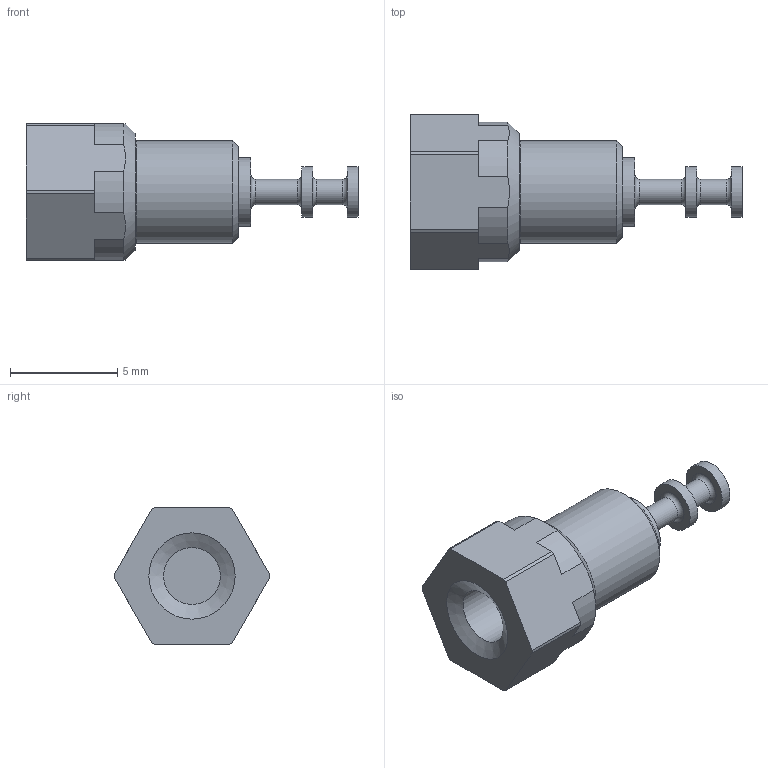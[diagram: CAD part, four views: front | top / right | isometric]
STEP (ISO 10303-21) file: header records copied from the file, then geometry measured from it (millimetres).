
FILE_DESCRIPTION(/* description */ (''),/* implementation_level */ '2;1');
FILE_NAME(/* name */ '\\Snap1\dwgs\Customer 3D Models\570\570-3650-02 Customer model.stp',/* time_stamp */ '2017-01-04T14:32:05+00:00',/* author */ ('paulk'),/* organization */ (''),/* preprocessor_version */ 'ST-DEVELOPER v15.2',/* originating_system */ 'Autodesk Inventor 2014',/* authorisation */ '');
FILE_SCHEMA (('CONFIG_CONTROL_DESIGN'));
Length unit declared in the file: millimetre
Products named in the file (1): 570-3650-02 Customer model
Bounding box: 15.44 x 7.24 x 6.34 mm (x, y, z)
Volume: 249.4 mm3; surface area: 306.5 mm2
Topology: 1 solids, 1 shells, 48 faces, 112 edges, 72 vertices
Faces by surface type: plane 20, cylinder 19, cone 5, torus 4
Full cylindrical faces by diameter (mm): 1.168 x2, 2.362 x2, 2.642 x1, 3.175 x1, 4.75 x1
Entity records: 1364 total; most frequent: DIRECTION 232, CARTESIAN_POINT 225, ORIENTED_EDGE 188, AXIS2_PLACEMENT_3D 95, EDGE_CURVE 94, EDGE_LOOP 70, VERTEX_POINT 70, STYLED_ITEM 49
